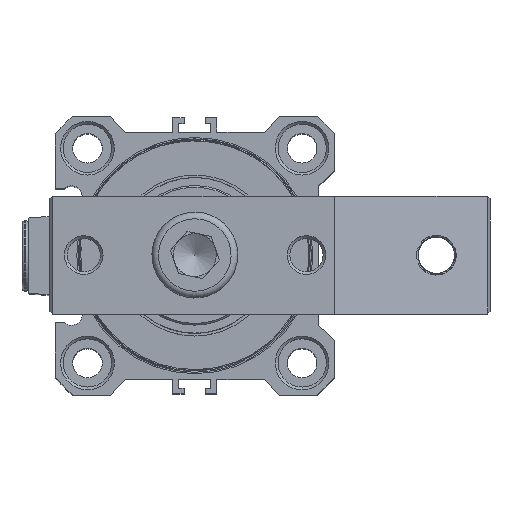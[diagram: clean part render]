
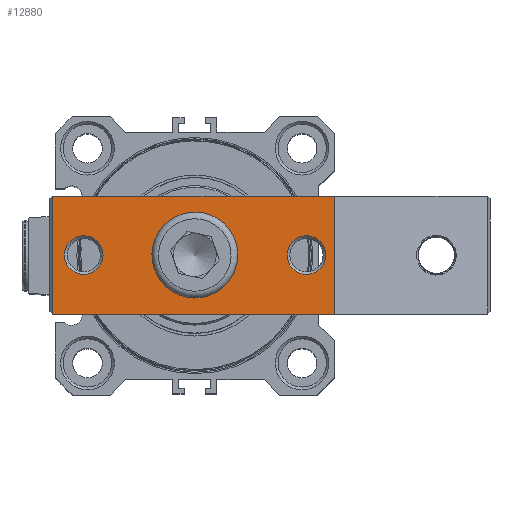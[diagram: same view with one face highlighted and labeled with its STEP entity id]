
A CAD part, top view. The second image highlights one B-rep face of the part: STEP entity #12880.
In plain terms, the highlighted planar face has unit normal (0, 0, 1) as drawn and (0, 1, 0) by its records, which use the part's own axes.
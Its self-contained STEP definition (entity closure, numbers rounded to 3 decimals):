
#326=PLANE('',#14186);
#457=FACE_BOUND('',#1839,.T.);
#458=FACE_BOUND('',#1840,.T.);
#459=FACE_BOUND('',#1841,.T.);
#1086=FACE_OUTER_BOUND('',#1838,.T.);
#1838=EDGE_LOOP('',(#10388,#10389,#10390,#10391));
#1839=EDGE_LOOP('',(#10392,#10393));
#1840=EDGE_LOOP('',(#10394,#10395));
#1841=EDGE_LOOP('',(#10396,#10397));
#2570=CIRCLE('',#14148,5.75);
#2571=CIRCLE('',#14149,5.75);
#2574=CIRCLE('',#14153,3.6);
#2575=CIRCLE('',#14154,3.6);
#2578=CIRCLE('',#14158,3.6);
#2579=CIRCLE('',#14159,3.6);
#3867=LINE('',#34049,#4572);
#3868=LINE('',#34051,#4573);
#3869=LINE('',#34053,#4574);
#3870=LINE('',#34054,#4575);
#4572=VECTOR('',#16984,1000.);
#4573=VECTOR('',#16985,1000.);
#4574=VECTOR('',#16986,1000.);
#4575=VECTOR('',#16987,1000.);
#5631=VERTEX_POINT('',#33190);
#5632=VERTEX_POINT('',#33192);
#5635=VERTEX_POINT('',#33200);
#5636=VERTEX_POINT('',#33202);
#5639=VERTEX_POINT('',#33210);
#5640=VERTEX_POINT('',#33212);
#5690=VERTEX_POINT('',#34047);
#5691=VERTEX_POINT('',#34048);
#5692=VERTEX_POINT('',#34050);
#5693=VERTEX_POINT('',#34052);
#7338=EDGE_CURVE('',#5632,#5631,#2570,.T.);
#7339=EDGE_CURVE('',#5631,#5632,#2571,.T.);
#7343=EDGE_CURVE('',#5636,#5635,#2574,.T.);
#7344=EDGE_CURVE('',#5635,#5636,#2575,.T.);
#7348=EDGE_CURVE('',#5640,#5639,#2578,.T.);
#7349=EDGE_CURVE('',#5639,#5640,#2579,.T.);
#7419=EDGE_CURVE('',#5690,#5691,#3867,.T.);
#7420=EDGE_CURVE('',#5690,#5692,#3868,.T.);
#7421=EDGE_CURVE('',#5692,#5693,#3869,.T.);
#7422=EDGE_CURVE('',#5691,#5693,#3870,.T.);
#10388=ORIENTED_EDGE('',*,*,#7419,.F.);
#10389=ORIENTED_EDGE('',*,*,#7420,.T.);
#10390=ORIENTED_EDGE('',*,*,#7421,.T.);
#10391=ORIENTED_EDGE('',*,*,#7422,.F.);
#10392=ORIENTED_EDGE('',*,*,#7338,.T.);
#10393=ORIENTED_EDGE('',*,*,#7339,.T.);
#10394=ORIENTED_EDGE('',*,*,#7348,.T.);
#10395=ORIENTED_EDGE('',*,*,#7349,.T.);
#10396=ORIENTED_EDGE('',*,*,#7343,.T.);
#10397=ORIENTED_EDGE('',*,*,#7344,.T.);
#12880=ADVANCED_FACE('',(#1086,#457,#458,#459),#326,.F.);
#14148=AXIS2_PLACEMENT_3D('',#33193,#16893,#16894);
#14149=AXIS2_PLACEMENT_3D('',#33194,#16895,#16896);
#14153=AXIS2_PLACEMENT_3D('',#33203,#16904,#16905);
#14154=AXIS2_PLACEMENT_3D('',#33204,#16906,#16907);
#14158=AXIS2_PLACEMENT_3D('',#33213,#16915,#16916);
#14159=AXIS2_PLACEMENT_3D('',#33214,#16917,#16918);
#14186=AXIS2_PLACEMENT_3D('',#34046,#16982,#16983);
#16893=DIRECTION('center_axis',(0.,-1.,0.));
#16894=DIRECTION('ref_axis',(0.,0.,-1.));
#16895=DIRECTION('center_axis',(0.,-1.,0.));
#16896=DIRECTION('ref_axis',(0.,0.,-1.));
#16904=DIRECTION('center_axis',(0.,-1.,0.));
#16905=DIRECTION('ref_axis',(0.,0.,-1.));
#16906=DIRECTION('center_axis',(0.,-1.,0.));
#16907=DIRECTION('ref_axis',(0.,0.,-1.));
#16915=DIRECTION('center_axis',(0.,-1.,0.));
#16916=DIRECTION('ref_axis',(0.,0.,-1.));
#16917=DIRECTION('center_axis',(0.,-1.,0.));
#16918=DIRECTION('ref_axis',(0.,0.,-1.));
#16982=DIRECTION('center_axis',(0.,-1.,0.));
#16983=DIRECTION('ref_axis',(0.,0.,-1.));
#16984=DIRECTION('',(-1.,0.,0.));
#16985=DIRECTION('',(0.,0.,-1.));
#16986=DIRECTION('',(-1.,0.,0.));
#16987=DIRECTION('',(0.,0.,-1.));
#33190=CARTESIAN_POINT('',(77.052,108.154,5.25));
#33192=CARTESIAN_POINT('',(77.052,108.154,16.75));
#33193=CARTESIAN_POINT('Origin',(77.052,108.154,11.));
#33194=CARTESIAN_POINT('Origin',(77.052,108.154,11.));
#33200=CARTESIAN_POINT('',(56.252,108.154,7.4));
#33202=CARTESIAN_POINT('',(56.252,108.154,14.6));
#33203=CARTESIAN_POINT('Origin',(56.252,108.154,11.));
#33204=CARTESIAN_POINT('Origin',(56.252,108.154,11.));
#33210=CARTESIAN_POINT('',(97.752,108.154,7.4));
#33212=CARTESIAN_POINT('',(97.752,108.154,14.6));
#33213=CARTESIAN_POINT('Origin',(97.752,108.154,11.));
#33214=CARTESIAN_POINT('Origin',(97.752,108.154,11.));
#34046=CARTESIAN_POINT('Origin',(104.052,108.154,22.));
#34047=CARTESIAN_POINT('',(103.552,108.154,22.));
#34048=CARTESIAN_POINT('',(51.052,108.154,22.));
#34049=CARTESIAN_POINT('',(104.052,108.154,22.));
#34050=CARTESIAN_POINT('',(103.552,108.154,0.));
#34051=CARTESIAN_POINT('',(103.552,108.154,22.));
#34052=CARTESIAN_POINT('',(51.052,108.154,0.));
#34053=CARTESIAN_POINT('',(104.052,108.154,0.));
#34054=CARTESIAN_POINT('',(51.052,108.154,22.));
